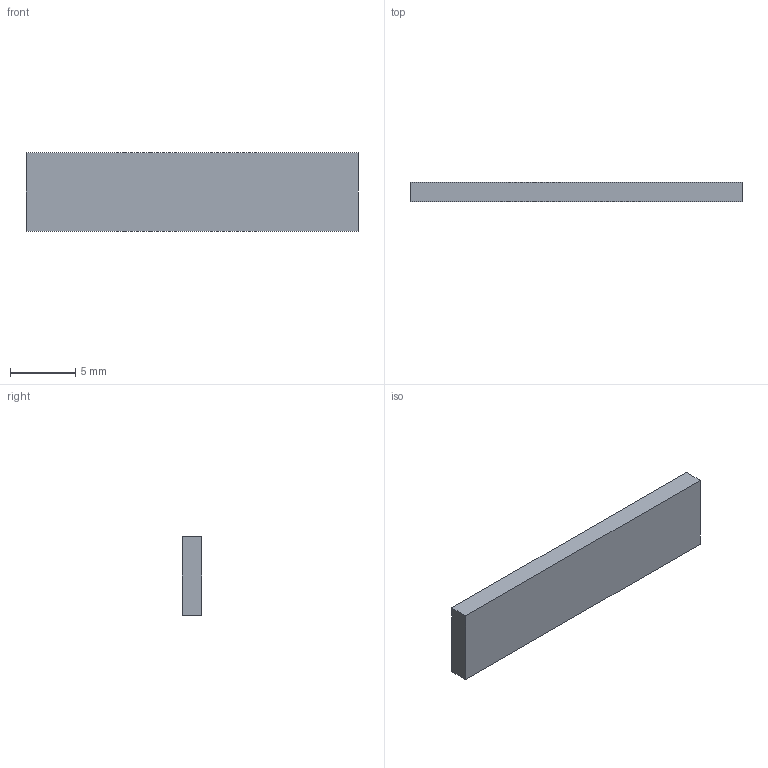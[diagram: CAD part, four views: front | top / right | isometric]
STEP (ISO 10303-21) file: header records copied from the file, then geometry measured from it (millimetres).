
FILE_DESCRIPTION(('STEP AP203'), '1');
FILE_NAME('ïëàñòèíêà ìåæäó ãðèôîì è ðåçîíàòîðîì', '', ('UNSPECIFIED'), ('UNSPECIFIED'), 'ASCON STEP Converter 1.3', 'ASCON Math Kernel', '');
FILE_SCHEMA(('CONFIG_CONTROL_DESIGN'));
Length unit declared in the file: millimetre
Bounding box: 25.5 x 1.5 x 6 mm (x, y, z)
Volume: 229.5 mm3; surface area: 400.5 mm2
Topology: 1 solids, 1 shells, 6 faces, 12 edges, 8 vertices
Faces by surface type: plane 6
Entity records: 248 total; most frequent: CARTESIAN_POINT 27, DIRECTION 26, ORIENTED_EDGE 24, EDGE_CURVE 12, LINE 12, VECTOR 12, VERTEX_POINT 8, AXIS2_PLACEMENT_3D 7
